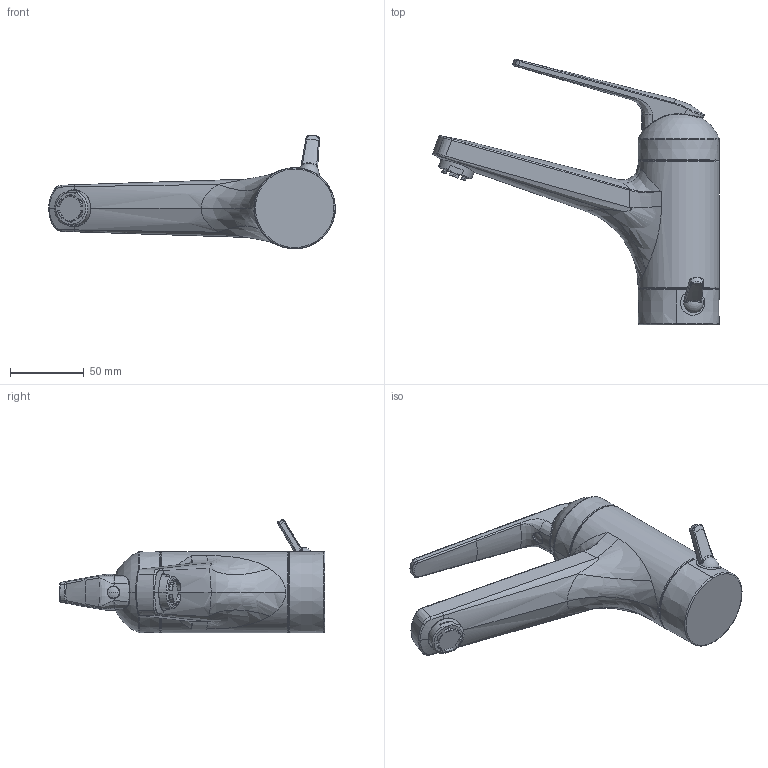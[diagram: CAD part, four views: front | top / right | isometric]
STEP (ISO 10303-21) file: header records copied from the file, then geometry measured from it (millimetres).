
FILE_DESCRIPTION((''),'2;1');
FILE_NAME('12_065_011_XXX','2012-06-08T',('azb9'),(''),'PRO/ENGINEER BY PARAMETRIC TECHNOLOGY CORPORATION, 2011080','PRO/ENGINEER BY PARAMETRIC TECHNOLOGY CORPORATION, 2011080','');
FILE_SCHEMA(('AUTOMOTIVE_DESIGN_CC2 { 1 2 10303 214 -1 1 5 2 }'));
Length unit declared in the file: millimetre
Products named in the file (1): 12_065_011_XXX
Bounding box: 194.02 x 179.83 x 77.05 mm (x, y, z)
Volume: 459939.5 mm3; surface area: 49232.5 mm2
Topology: 1 solids, 1 shells, 261 faces, 618 edges, 371 vertices
Faces by surface type: bspline 121, plane 61, cylinder 42, torus 18, cone 12, sphere 7
Entity records: 18255 total; most frequent: CARTESIAN_POINT 10216, ORIENTED_EDGE 1232, DIRECTION 839, EDGE_CURVE 616, FILL_AREA_STYLE_COLOUR 462, FILL_AREA_STYLE 462, SURFACE_STYLE_FILL_AREA 462, SURFACE_SIDE_STYLE 462
